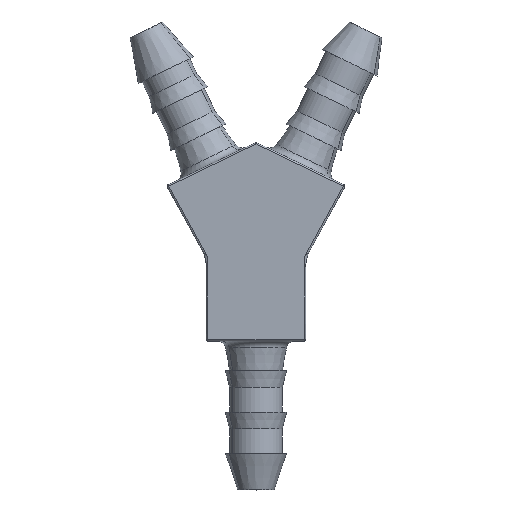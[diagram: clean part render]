
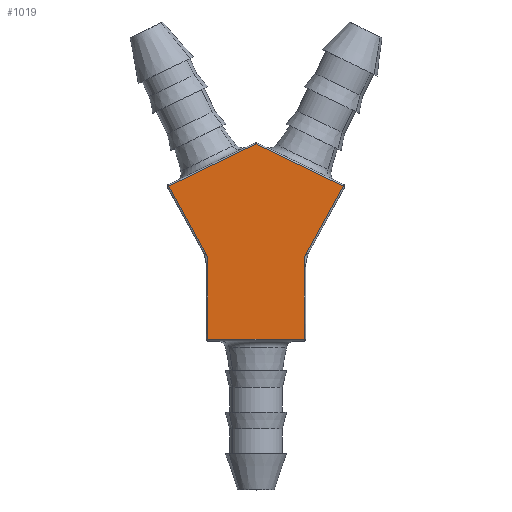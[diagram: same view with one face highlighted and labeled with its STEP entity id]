
A CAD part, top view. The second image highlights one B-rep face of the part: STEP entity #1019.
In plain terms, the highlighted planar face has unit normal (0, 0, 1).
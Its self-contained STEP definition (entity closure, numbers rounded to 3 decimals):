
#959=AXIS2_PLACEMENT_3D('Plane Axis2P3D',#956,#957,#958) ;
#956=CARTESIAN_POINT('Axis2P3D Location',(0.,0.,5.)) ;
#961=CARTESIAN_POINT('Line Origine',(-4.081,7.184,5.)) ;
#965=CARTESIAN_POINT('Vertex',(-5.262,9.342,5.)) ;
#967=CARTESIAN_POINT('Vertex',(-2.9,5.026,5.)) ;
#970=CARTESIAN_POINT('Line Origine',(-2.9,2.563,5.)) ;
#974=CARTESIAN_POINT('Vertex',(-2.9,0.1,5.)) ;
#977=CARTESIAN_POINT('Line Origine',(0.,0.1,5.)) ;
#981=CARTESIAN_POINT('Vertex',(2.9,0.1,5.)) ;
#984=CARTESIAN_POINT('Line Origine',(2.9,2.563,5.)) ;
#988=CARTESIAN_POINT('Vertex',(2.9,5.026,5.)) ;
#991=CARTESIAN_POINT('Line Origine',(4.081,7.184,5.)) ;
#995=CARTESIAN_POINT('Vertex',(5.262,9.342,5.)) ;
#998=CARTESIAN_POINT('Line Origine',(2.631,10.615,5.)) ;
#1002=CARTESIAN_POINT('Vertex',(0.,11.889,5.)) ;
#1005=CARTESIAN_POINT('Line Origine',(-2.631,10.615,5.)) ;
#957=DIRECTION('Axis2P3D Direction',(0.,0.,1.)) ;
#958=DIRECTION('Axis2P3D XDirection',(1.,0.,0.)) ;
#962=DIRECTION('Vector Direction',(0.48,-0.877,0.)) ;
#971=DIRECTION('Vector Direction',(0.,-1.,0.)) ;
#978=DIRECTION('Vector Direction',(1.,0.,0.)) ;
#985=DIRECTION('Vector Direction',(0.,1.,0.)) ;
#992=DIRECTION('Vector Direction',(0.48,0.877,0.)) ;
#999=DIRECTION('Vector Direction',(0.9,-0.436,0.)) ;
#1006=DIRECTION('Vector Direction',(-0.9,-0.436,0.)) ;
#963=VECTOR('Line Direction',#962,1.) ;
#972=VECTOR('Line Direction',#971,1.) ;
#979=VECTOR('Line Direction',#978,1.) ;
#986=VECTOR('Line Direction',#985,1.) ;
#993=VECTOR('Line Direction',#992,1.) ;
#1000=VECTOR('Line Direction',#999,1.) ;
#1007=VECTOR('Line Direction',#1006,1.) ;
#1011=ORIENTED_EDGE('',*,*,#969,.T.) ;
#1012=ORIENTED_EDGE('',*,*,#976,.T.) ;
#1013=ORIENTED_EDGE('',*,*,#983,.T.) ;
#1014=ORIENTED_EDGE('',*,*,#990,.T.) ;
#1015=ORIENTED_EDGE('',*,*,#997,.T.) ;
#1016=ORIENTED_EDGE('',*,*,#1004,.T.) ;
#1017=ORIENTED_EDGE('',*,*,#1009,.T.) ;
#1019=ADVANCED_FACE('\X2\96F64EF651E04F554F53\X0\',(#1018),#960,.T.) ;
#969=EDGE_CURVE('',#966,#968,#964,.T.) ;
#976=EDGE_CURVE('',#968,#975,#973,.T.) ;
#983=EDGE_CURVE('',#975,#982,#980,.T.) ;
#990=EDGE_CURVE('',#982,#989,#987,.T.) ;
#997=EDGE_CURVE('',#989,#996,#994,.T.) ;
#1004=EDGE_CURVE('',#996,#1003,#1001,.F.) ;
#1009=EDGE_CURVE('',#1003,#966,#1008,.T.) ;
#1010=EDGE_LOOP('',(#1011,#1012,#1013,#1014,#1015,#1016,#1017)) ;
#1018=FACE_OUTER_BOUND('',#1010,.T.) ;
#964=LINE('Line',#961,#963) ;
#973=LINE('Line',#970,#972) ;
#980=LINE('Line',#977,#979) ;
#987=LINE('Line',#984,#986) ;
#994=LINE('Line',#991,#993) ;
#1001=LINE('Line',#998,#1000) ;
#1008=LINE('Line',#1005,#1007) ;
#960=PLANE('Plane',#959) ;
#966=VERTEX_POINT('',#965) ;
#968=VERTEX_POINT('',#967) ;
#975=VERTEX_POINT('',#974) ;
#982=VERTEX_POINT('',#981) ;
#989=VERTEX_POINT('',#988) ;
#996=VERTEX_POINT('',#995) ;
#1003=VERTEX_POINT('',#1002) ;
